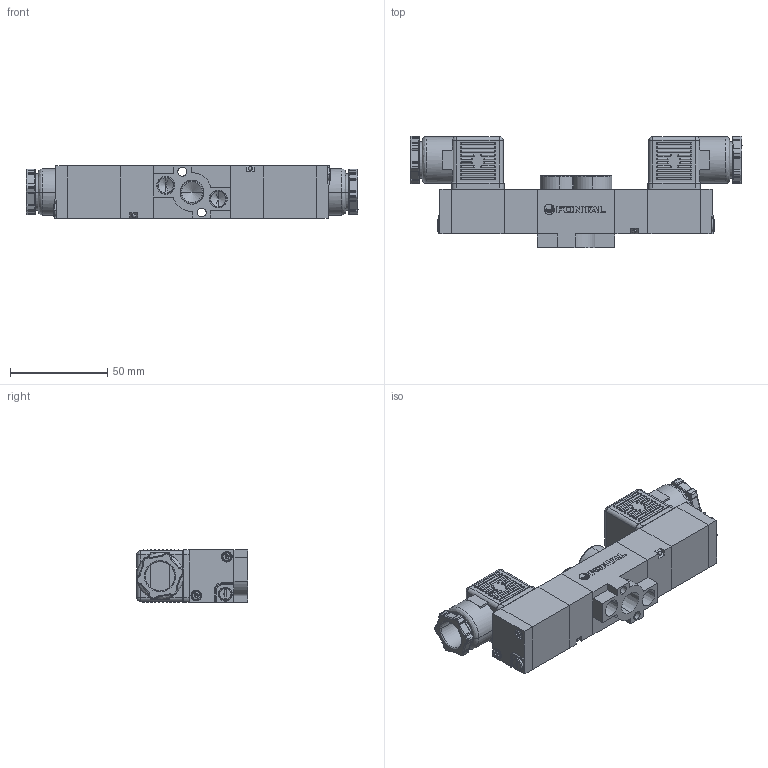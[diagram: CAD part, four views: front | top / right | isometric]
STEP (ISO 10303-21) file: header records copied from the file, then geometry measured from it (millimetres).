
FILE_DESCRIPTION (( 'STEP AP203' ), '1' );
FILE_NAME ('RCD2406-02-#C##.STEP', '2016-02-04T06:10:22', ( 'Sam Lin' ), ( '' ), 'SwSTEP 2.0', 'SolidWorks 2013', '' );
FILE_SCHEMA (( 'CONFIG_CONTROL_DESIGN' ));
Length unit declared in the file: metre
Products named in the file (11): PCS2406-3-C; RC06-1; RCD2406-02-#C##; RC06-3; PCS2406-3-小圓珠; PC6-M4; PCS2406-9; PC6-M3; RC06-4; RC06-5; PC06-MARK
Assembly tree (20 placements, depth 2):
  RCD2406-02-#C##
    PC06-MARK
    RC06-1
    RC06-3  x2
    PCS2406-3-小圓珠  x2
    PC6-M4  x2
    PCS2406-9  x2
    PC6-M3  x4
    RC06-4  x2
    RC06-5  x2
    PCS2406-3-C  x2
Bounding box: 170.7 x 57.14 x 27.15 mm (x, y, z)
Volume: 136899 mm3; surface area: 44284.6 mm2
Topology: 26 solids, 26 shells, 1150 faces, 2974 edges, 1674 vertices
Faces by surface type: plane 385, bspline 347, cylinder 340, cone 78
Entity records: 26618 total; most frequent: CARTESIAN_POINT 11264, ORIENTED_EDGE 3022, DIRECTION 2699, EDGE_CURVE 1511, AXIS2_PLACEMENT_3D 979, VERTEX_POINT 952, LINE 741, VECTOR 741
